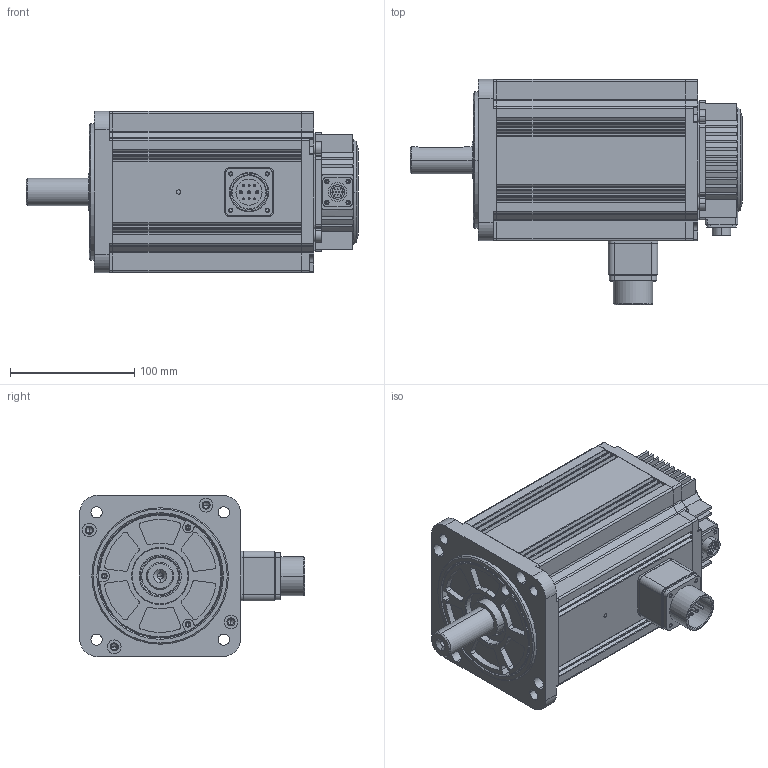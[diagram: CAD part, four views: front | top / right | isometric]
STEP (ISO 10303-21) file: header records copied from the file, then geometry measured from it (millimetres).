
FILE_DESCRIPTION (( 'STEP AP203' ), '1' );
FILE_NAME ('UMM-0015EAB-B2 UMM-0015CAB-B2.STEP', '2019-04-18T05:14:07', ( '' ), ( '' ), 'SwSTEP 2.0', 'SolidWorks 2017', '' );
FILE_SCHEMA (( 'CONFIG_CONTROL_DESIGN' ));
Length unit declared in the file: millimetre
Products named in the file (1): UMM-0015EAB-B2 UMM-0015CAB-B2
Bounding box: 267.5 x 181.3 x 130 mm (x, y, z)
Volume: 1150275.5 mm3; surface area: 397510 mm2
Topology: 12 solids, 12 shells, 1439 faces, 4026 edges, 2576 vertices
Faces by surface type: cylinder 642, plane 513, bspline 124, cone 122, torus 38
Entity records: 53761 total; most frequent: CARTESIAN_POINT 16623, DIRECTION 7901, ORIENTED_EDGE 7824, EDGE_CURVE 3912, AXIS2_PLACEMENT_3D 3016, VERTEX_POINT 2576, LINE 1869, VECTOR 1869
